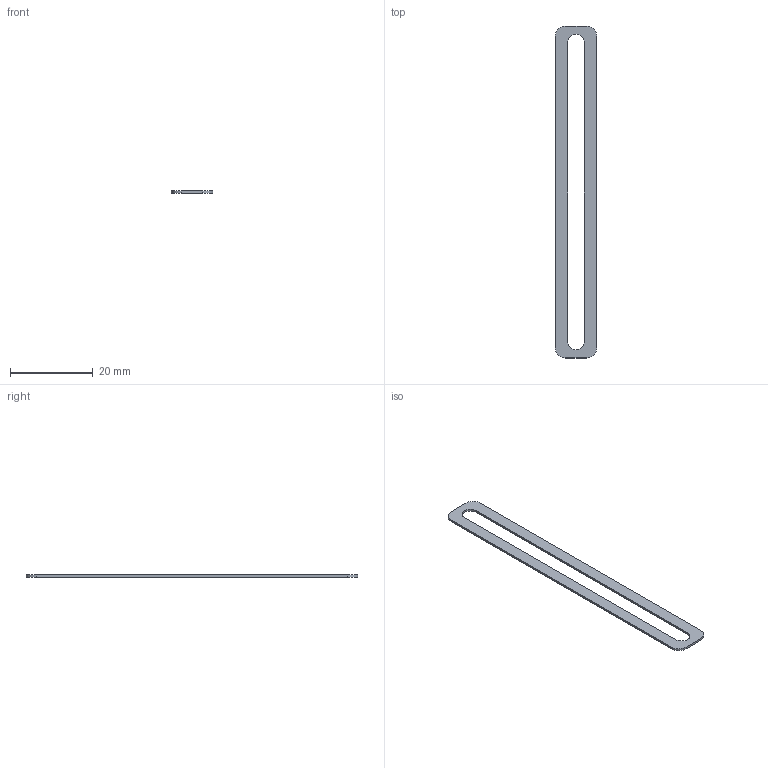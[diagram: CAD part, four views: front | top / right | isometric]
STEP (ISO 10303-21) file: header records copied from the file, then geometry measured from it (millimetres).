
FILE_DESCRIPTION (( 'STEP AP203' ), '1' );
FILE_NAME ('microfluidic_20260510.step', '2026-06-05T03:32:56', ( '' ), ( '' ), 'SwSTEP 2.0', 'SolidWorks 2024', '' );
FILE_SCHEMA (( 'CONFIG_CONTROL_DESIGN' ));
Length unit declared in the file: millimetre
Products named in the file (1): microfluidic_20260510
Bounding box: 10 x 80 x 0.5 mm (x, y, z)
Volume: 247 mm3; surface area: 1154.3 mm2
Topology: 1 solids, 1 shells, 14 faces, 36 edges, 24 vertices
Faces by surface type: plane 8, cylinder 6
Entity records: 513 total; most frequent: DIRECTION 78, CARTESIAN_POINT 75, ORIENTED_EDGE 72, EDGE_CURVE 36, AXIS2_PLACEMENT_3D 27, VERTEX_POINT 24, VECTOR 24, LINE 24
